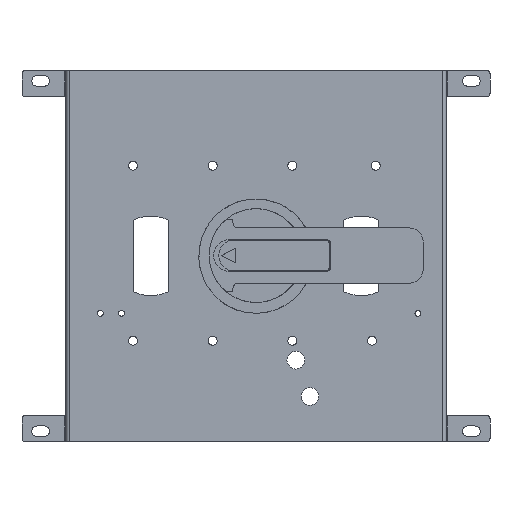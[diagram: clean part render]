
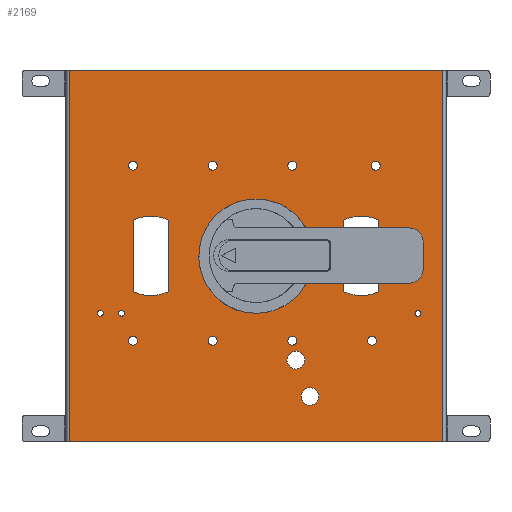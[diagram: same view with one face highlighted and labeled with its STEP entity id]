
A CAD part, top view. The second image highlights one B-rep face of the part: STEP entity #2169.
In plain terms, the highlighted planar face has unit normal (0, 0, 1).
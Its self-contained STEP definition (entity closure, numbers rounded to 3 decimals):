
#2169=ADVANCED_FACE('',(#6252,#6253,#6254,#6255,#6256,#6257,#6258,#6259,
#6260,#6261,#6262,#6263,#6264,#6265,#6266,#6267,#6268),#3031,.T.);
#3031=PLANE('',#17817);
#3840=LINE('',#32473,#5169);
#3841=LINE('',#32477,#5170);
#3842=LINE('',#32480,#5171);
#3843=LINE('',#32483,#5172);
#3844=LINE('',#32485,#5173);
#3845=LINE('',#32487,#5174);
#3846=LINE('',#32503,#5175);
#3847=LINE('',#32507,#5176);
#5169=VECTOR('',#20103,1.);
#5170=VECTOR('',#20106,1.);
#5171=VECTOR('',#20109,1.);
#5172=VECTOR('',#20110,1.);
#5173=VECTOR('',#20111,1.);
#5174=VECTOR('',#20112,1.);
#5175=VECTOR('',#20127,1.);
#5176=VECTOR('',#20130,1.);
#6252=FACE_BOUND('',#6806,.T.);
#6253=FACE_BOUND('',#6807,.T.);
#6254=FACE_BOUND('',#6808,.T.);
#6255=FACE_BOUND('',#6809,.T.);
#6256=FACE_BOUND('',#6810,.T.);
#6257=FACE_BOUND('',#6811,.T.);
#6258=FACE_BOUND('',#6812,.T.);
#6259=FACE_BOUND('',#6813,.T.);
#6260=FACE_BOUND('',#6814,.T.);
#6261=FACE_BOUND('',#6815,.T.);
#6262=FACE_BOUND('',#6816,.T.);
#6263=FACE_BOUND('',#6817,.T.);
#6264=FACE_BOUND('',#6818,.T.);
#6265=FACE_BOUND('',#6819,.T.);
#6266=FACE_BOUND('',#6820,.T.);
#6267=FACE_BOUND('',#6821,.T.);
#6268=FACE_BOUND('',#6822,.T.);
#6806=EDGE_LOOP('',(#8906));
#6807=EDGE_LOOP('',(#8907));
#6808=EDGE_LOOP('',(#8908));
#6809=EDGE_LOOP('',(#8909));
#6810=EDGE_LOOP('',(#8910));
#6811=EDGE_LOOP('',(#8911));
#6812=EDGE_LOOP('',(#8912));
#6813=EDGE_LOOP('',(#8913,#8914,#8915,#8916));
#6814=EDGE_LOOP('',(#8917));
#6815=EDGE_LOOP('',(#8918,#8919,#8920,#8921));
#6816=EDGE_LOOP('',(#8922));
#6817=EDGE_LOOP('',(#8923));
#6818=EDGE_LOOP('',(#8924));
#6819=EDGE_LOOP('',(#8925));
#6820=EDGE_LOOP('',(#8926));
#6821=EDGE_LOOP('',(#8927));
#6822=EDGE_LOOP('',(#8928,#8929,#8930,#8931));
#8906=ORIENTED_EDGE('',*,*,#14929,.F.);
#8907=ORIENTED_EDGE('',*,*,#14930,.F.);
#8908=ORIENTED_EDGE('',*,*,#14931,.F.);
#8909=ORIENTED_EDGE('',*,*,#14932,.F.);
#8910=ORIENTED_EDGE('',*,*,#14933,.F.);
#8911=ORIENTED_EDGE('',*,*,#14934,.F.);
#8912=ORIENTED_EDGE('',*,*,#14935,.F.);
#8913=ORIENTED_EDGE('',*,*,#14936,.F.);
#8914=ORIENTED_EDGE('',*,*,#14937,.F.);
#8915=ORIENTED_EDGE('',*,*,#14938,.F.);
#8916=ORIENTED_EDGE('',*,*,#14939,.F.);
#8917=ORIENTED_EDGE('',*,*,#14940,.T.);
#8918=ORIENTED_EDGE('',*,*,#14941,.F.);
#8919=ORIENTED_EDGE('',*,*,#14942,.T.);
#8920=ORIENTED_EDGE('',*,*,#14943,.T.);
#8921=ORIENTED_EDGE('',*,*,#14944,.T.);
#8922=ORIENTED_EDGE('',*,*,#14945,.F.);
#8923=ORIENTED_EDGE('',*,*,#14946,.F.);
#8924=ORIENTED_EDGE('',*,*,#14947,.T.);
#8925=ORIENTED_EDGE('',*,*,#14948,.F.);
#8926=ORIENTED_EDGE('',*,*,#14949,.F.);
#8927=ORIENTED_EDGE('',*,*,#14950,.F.);
#8928=ORIENTED_EDGE('',*,*,#14951,.T.);
#8929=ORIENTED_EDGE('',*,*,#14952,.T.);
#8930=ORIENTED_EDGE('',*,*,#14953,.T.);
#8931=ORIENTED_EDGE('',*,*,#14954,.T.);
#13066=VERTEX_POINT('',#32457);
#13067=VERTEX_POINT('',#32459);
#13068=VERTEX_POINT('',#32461);
#13069=VERTEX_POINT('',#32463);
#13070=VERTEX_POINT('',#32465);
#13071=VERTEX_POINT('',#32467);
#13072=VERTEX_POINT('',#32469);
#13073=VERTEX_POINT('',#32471);
#13074=VERTEX_POINT('',#32472);
#13075=VERTEX_POINT('',#32474);
#13076=VERTEX_POINT('',#32476);
#13077=VERTEX_POINT('',#32479);
#13078=VERTEX_POINT('',#32481);
#13079=VERTEX_POINT('',#32482);
#13080=VERTEX_POINT('',#32484);
#13081=VERTEX_POINT('',#32486);
#13082=VERTEX_POINT('',#32489);
#13083=VERTEX_POINT('',#32491);
#13084=VERTEX_POINT('',#32493);
#13085=VERTEX_POINT('',#32495);
#13086=VERTEX_POINT('',#32497);
#13087=VERTEX_POINT('',#32499);
#13088=VERTEX_POINT('',#32501);
#13089=VERTEX_POINT('',#32502);
#13090=VERTEX_POINT('',#32504);
#13091=VERTEX_POINT('',#32506);
#14929=EDGE_CURVE('',#13066,#13066,#16922,.T.);
#14930=EDGE_CURVE('',#13067,#13067,#16923,.T.);
#14931=EDGE_CURVE('',#13068,#13068,#16924,.T.);
#14932=EDGE_CURVE('',#13069,#13069,#16925,.T.);
#14933=EDGE_CURVE('',#13070,#13070,#16926,.T.);
#14934=EDGE_CURVE('',#13071,#13071,#16927,.T.);
#14935=EDGE_CURVE('',#13072,#13072,#16928,.T.);
#14936=EDGE_CURVE('',#13073,#13074,#16929,.T.);
#14937=EDGE_CURVE('',#13075,#13073,#3840,.T.);
#14938=EDGE_CURVE('',#13076,#13075,#16930,.T.);
#14939=EDGE_CURVE('',#13074,#13076,#3841,.T.);
#14940=EDGE_CURVE('',#13077,#13077,#16931,.T.);
#14941=EDGE_CURVE('',#13078,#13079,#3842,.T.);
#14942=EDGE_CURVE('',#13078,#13080,#3843,.T.);
#14943=EDGE_CURVE('',#13080,#13081,#3844,.T.);
#14944=EDGE_CURVE('',#13081,#13079,#3845,.T.);
#14945=EDGE_CURVE('',#13082,#13082,#16932,.T.);
#14946=EDGE_CURVE('',#13083,#13083,#16933,.T.);
#14947=EDGE_CURVE('',#13084,#13084,#16934,.T.);
#14948=EDGE_CURVE('',#13085,#13085,#16935,.T.);
#14949=EDGE_CURVE('',#13086,#13086,#16936,.T.);
#14950=EDGE_CURVE('',#13087,#13087,#16937,.T.);
#14951=EDGE_CURVE('',#13088,#13089,#16938,.T.);
#14952=EDGE_CURVE('',#13089,#13090,#3846,.T.);
#14953=EDGE_CURVE('',#13090,#13091,#16939,.T.);
#14954=EDGE_CURVE('',#13091,#13088,#3847,.T.);
#16922=CIRCLE('',#17799,1.65);
#16923=CIRCLE('',#17800,1.65);
#16924=CIRCLE('',#17801,1.65);
#16925=CIRCLE('',#17802,2.5);
#16926=CIRCLE('',#17803,2.5);
#16927=CIRCLE('',#17804,5.);
#16928=CIRCLE('',#17805,5.);
#16929=CIRCLE('',#17806,22.5);
#16930=CIRCLE('',#17807,22.5);
#16931=CIRCLE('',#17808,2.5);
#16932=CIRCLE('',#17809,12.);
#16933=CIRCLE('',#17810,2.5);
#16934=CIRCLE('',#17811,2.5);
#16935=CIRCLE('',#17812,2.5);
#16936=CIRCLE('',#17813,2.5);
#16937=CIRCLE('',#17814,2.5);
#16938=CIRCLE('',#17815,22.5);
#16939=CIRCLE('',#17816,22.5);
#17799=AXIS2_PLACEMENT_3D('',#32456,#20087,#20088);
#17800=AXIS2_PLACEMENT_3D('',#32458,#20089,#20090);
#17801=AXIS2_PLACEMENT_3D('',#32460,#20091,#20092);
#17802=AXIS2_PLACEMENT_3D('',#32462,#20093,#20094);
#17803=AXIS2_PLACEMENT_3D('',#32464,#20095,#20096);
#17804=AXIS2_PLACEMENT_3D('',#32466,#20097,#20098);
#17805=AXIS2_PLACEMENT_3D('',#32468,#20099,#20100);
#17806=AXIS2_PLACEMENT_3D('',#32470,#20101,#20102);
#17807=AXIS2_PLACEMENT_3D('',#32475,#20104,#20105);
#17808=AXIS2_PLACEMENT_3D('',#32478,#20107,#20108);
#17809=AXIS2_PLACEMENT_3D('',#32488,#20113,#20114);
#17810=AXIS2_PLACEMENT_3D('',#32490,#20115,#20116);
#17811=AXIS2_PLACEMENT_3D('',#32492,#20117,#20118);
#17812=AXIS2_PLACEMENT_3D('',#32494,#20119,#20120);
#17813=AXIS2_PLACEMENT_3D('',#32496,#20121,#20122);
#17814=AXIS2_PLACEMENT_3D('',#32498,#20123,#20124);
#17815=AXIS2_PLACEMENT_3D('',#32500,#20125,#20126);
#17816=AXIS2_PLACEMENT_3D('',#32505,#20128,#20129);
#17817=AXIS2_PLACEMENT_3D('',#32508,#20131,#20132);
#20087=DIRECTION('',(0.,0.,1.));
#20088=DIRECTION('',(0.,1.,0.));
#20089=DIRECTION('',(0.,0.,1.));
#20090=DIRECTION('',(0.,1.,0.));
#20091=DIRECTION('',(0.,0.,1.));
#20092=DIRECTION('',(0.,1.,0.));
#20093=DIRECTION('',(0.,0.,1.));
#20094=DIRECTION('',(1.,0.,0.));
#20095=DIRECTION('',(0.,0.,1.));
#20096=DIRECTION('',(1.,0.,0.));
#20097=DIRECTION('',(0.,0.,1.));
#20098=DIRECTION('',(0.,1.,0.));
#20099=DIRECTION('',(0.,0.,1.));
#20100=DIRECTION('',(0.,1.,0.));
#20101=DIRECTION('',(0.,0.,1.));
#20102=DIRECTION('',(0.,1.,0.));
#20103=DIRECTION('',(0.,1.,0.));
#20104=DIRECTION('',(0.,0.,1.));
#20105=DIRECTION('',(0.,1.,0.));
#20106=DIRECTION('',(0.,-1.,0.));
#20107=DIRECTION('',(0.,0.,-1.));
#20108=DIRECTION('',(0.,-1.,0.));
#20109=DIRECTION('',(-1.,0.,0.));
#20110=DIRECTION('',(0.,1.,0.));
#20111=DIRECTION('',(-1.,0.,0.));
#20112=DIRECTION('',(0.,-1.,0.));
#20113=DIRECTION('',(0.,0.,1.));
#20114=DIRECTION('',(0.,1.,0.));
#20115=DIRECTION('',(0.,0.,1.));
#20116=DIRECTION('',(0.,1.,0.));
#20117=DIRECTION('',(0.,0.,-1.));
#20118=DIRECTION('',(0.,-1.,0.));
#20119=DIRECTION('',(0.,0.,1.));
#20120=DIRECTION('',(0.,1.,0.));
#20121=DIRECTION('',(0.,0.,1.));
#20122=DIRECTION('',(0.,1.,0.));
#20123=DIRECTION('',(0.,0.,1.));
#20124=DIRECTION('',(0.,1.,0.));
#20125=DIRECTION('',(0.,0.,-1.));
#20126=DIRECTION('',(0.,1.,0.));
#20127=DIRECTION('',(0.,1.,0.));
#20128=DIRECTION('',(0.,0.,-1.));
#20129=DIRECTION('',(0.,1.,0.));
#20130=DIRECTION('',(0.,-1.,0.));
#20131=DIRECTION('',(0.,0.,1.));
#20132=DIRECTION('',(1.,0.,0.));
#32456=CARTESIAN_POINT('',(184.,154.5,185.));
#32457=CARTESIAN_POINT('',(184.,156.15,185.));
#32458=CARTESIAN_POINT('',(4.5,154.5,185.));
#32459=CARTESIAN_POINT('',(4.5,156.15,185.));
#32460=CARTESIAN_POINT('',(16.5,154.5,185.));
#32461=CARTESIAN_POINT('',(16.5,156.15,185.));
#32462=CARTESIAN_POINT('',(158.,139.,185.));
#32463=CARTESIAN_POINT('',(160.5,139.,185.));
#32464=CARTESIAN_POINT('',(160.152,238.,185.));
#32465=CARTESIAN_POINT('',(162.652,238.,185.));
#32466=CARTESIAN_POINT('',(115.,128.,185.));
#32467=CARTESIAN_POINT('',(115.,133.,185.));
#32468=CARTESIAN_POINT('',(122.95,107.55,185.));
#32469=CARTESIAN_POINT('',(122.95,112.55,185.));
#32470=CARTESIAN_POINT('',(33.,187.,185.));
#32471=CARTESIAN_POINT('',(43.,207.156,185.));
#32472=CARTESIAN_POINT('',(23.,207.156,185.));
#32473=CARTESIAN_POINT('',(43.,166.844,185.));
#32474=CARTESIAN_POINT('',(43.,166.844,185.));
#32475=CARTESIAN_POINT('',(33.,187.,185.));
#32476=CARTESIAN_POINT('',(23.,166.844,185.));
#32477=CARTESIAN_POINT('',(23.,207.156,185.));
#32478=CARTESIAN_POINT('',(68.,139.,185.));
#32479=CARTESIAN_POINT('',(68.,136.5,185.));
#32480=CARTESIAN_POINT('',(2.,82.,185.));
#32481=CARTESIAN_POINT('',(198.,82.,185.));
#32482=CARTESIAN_POINT('',(-13.,82.,185.));
#32483=CARTESIAN_POINT('',(198.,72.,185.));
#32484=CARTESIAN_POINT('',(198.,292.,185.));
#32485=CARTESIAN_POINT('',(2.,292.,185.));
#32486=CARTESIAN_POINT('',(-13.,292.,185.));
#32487=CARTESIAN_POINT('',(-13.,72.,185.));
#32488=CARTESIAN_POINT('',(92.5,187.,185.));
#32489=CARTESIAN_POINT('',(92.5,199.,185.));
#32490=CARTESIAN_POINT('',(23.,238.,185.));
#32491=CARTESIAN_POINT('',(23.,240.5,185.));
#32492=CARTESIAN_POINT('',(113.,139.,185.));
#32493=CARTESIAN_POINT('',(113.,136.5,185.));
#32494=CARTESIAN_POINT('',(113.,238.,185.));
#32495=CARTESIAN_POINT('',(113.,240.5,185.));
#32496=CARTESIAN_POINT('',(23.,139.,185.));
#32497=CARTESIAN_POINT('',(23.,141.5,185.));
#32498=CARTESIAN_POINT('',(68.,238.,185.));
#32499=CARTESIAN_POINT('',(68.,240.5,185.));
#32500=CARTESIAN_POINT('',(152.,187.,185.));
#32501=CARTESIAN_POINT('',(162.,166.844,185.));
#32502=CARTESIAN_POINT('',(142.,166.844,185.));
#32503=CARTESIAN_POINT('',(142.,166.844,185.));
#32504=CARTESIAN_POINT('',(142.,207.156,185.));
#32505=CARTESIAN_POINT('',(152.,187.,185.));
#32506=CARTESIAN_POINT('',(162.,207.156,185.));
#32507=CARTESIAN_POINT('',(162.,207.156,185.));
#32508=CARTESIAN_POINT('',(123.,135.45,185.));
